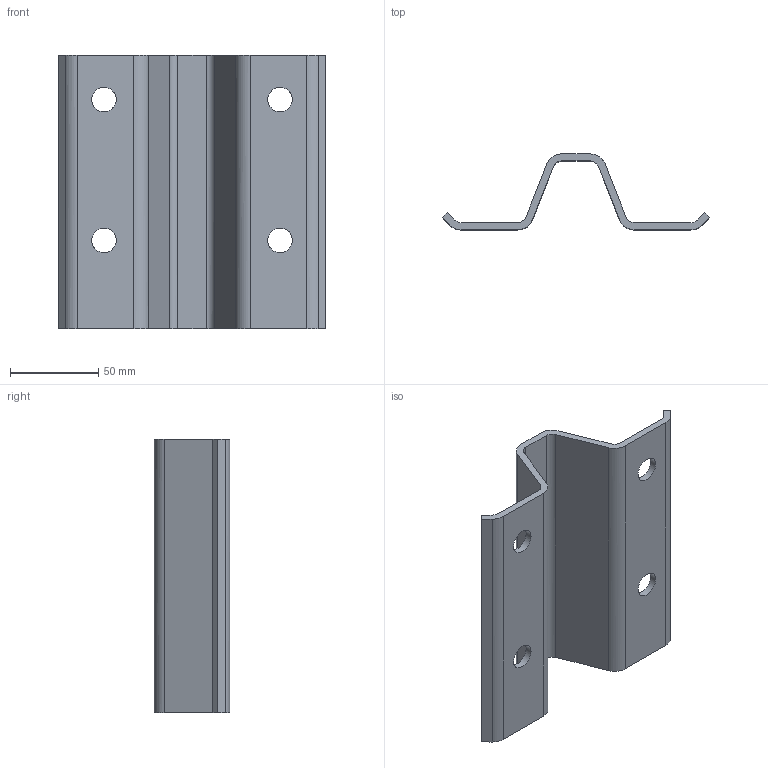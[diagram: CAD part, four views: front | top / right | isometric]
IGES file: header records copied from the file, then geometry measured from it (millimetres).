
Global section: file name: ZC170; native system: Autodesk RealDWG; preprocessor: Autodesk Translation Framework DWG producer (atf_dwg_producer); organization: unknown; date: 20230703.111856; units: centimetre
Bounding box: 151.72 x 43 x 155 mm (x, y, z)
Volume: 122667.4 mm3; surface area: 64892.6 mm2
Topology: 1 solids, 1 shells, 34 faces, 104 edges, 72 vertices
Faces by surface type: bspline 34
